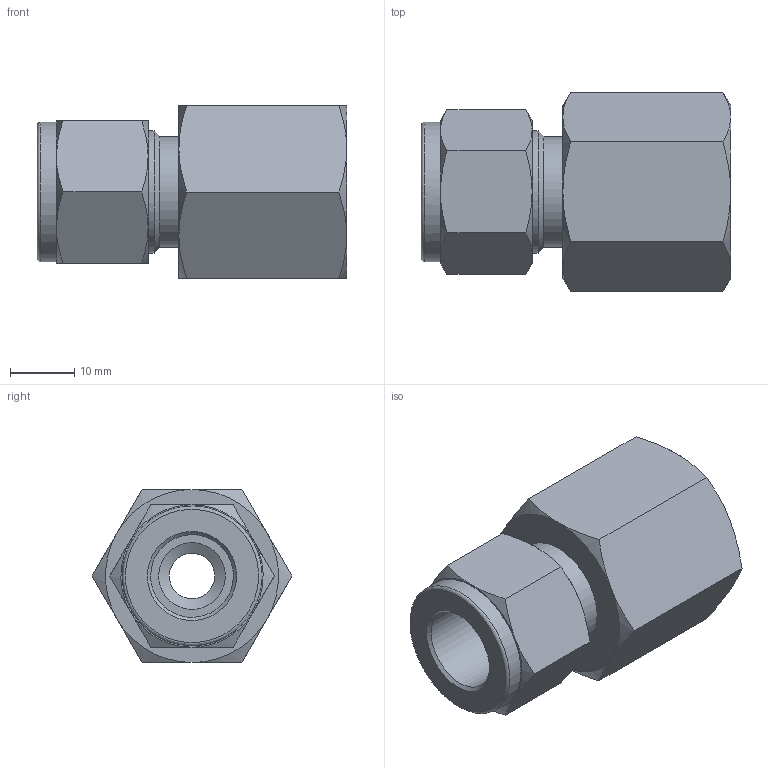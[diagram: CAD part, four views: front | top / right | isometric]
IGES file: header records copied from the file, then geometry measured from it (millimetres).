
Global section: file name: SGC-8-8G; native system: Autodesk Inventor 2016; preprocessor: unknown; author: DESIGNPC2; date: 20151219.151125; units: millimetre
Bounding box: 48.3 x 31.18 x 27 mm (x, y, z)
Volume: 16494.6 mm3; surface area: 7563.5 mm2
Topology: 1 solids, 1 shells, 56 faces, 133 edges, 85 vertices
Faces by surface type: bspline 56
